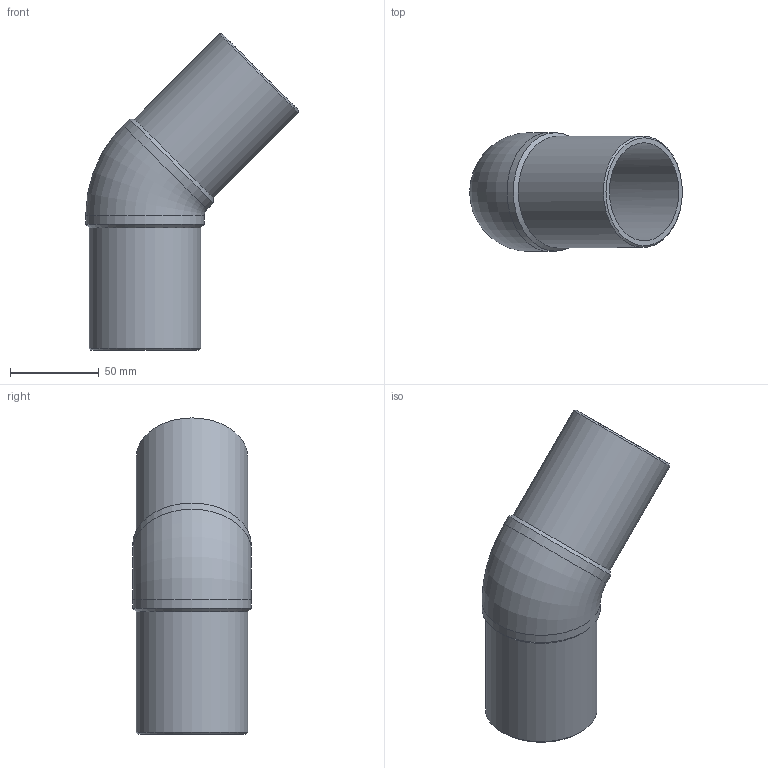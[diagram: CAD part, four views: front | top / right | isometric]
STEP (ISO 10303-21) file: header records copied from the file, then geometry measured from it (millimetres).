
FILE_DESCRIPTION(/* description */ ('Unknown'),/* implementation_level */ '2;1');
FILE_NAME(/* name */ 'G4P063B',/* time_stamp */ '2022-01-17T11:15:58+01:00',/* author */ ('Unknown'),/* organization */ ('Unknown'),/* preprocessor_version */ 'ST-DEVELOPER v18.1',/* originating_system */ 'Solid Edge',/* authorisation */ 'Unknown');
FILE_SCHEMA (('AUTOMOTIVE_DESIGN {1 0 10303 214 3 1 1}'));
Length unit declared in the file: millimetre
Products named in the file (1): G4P063B
Bounding box: 120.12 x 67 x 178.62 mm (x, y, z)
Volume: 146335.5 mm3; surface area: 69887 mm2
Topology: 1 solids, 1 shells, 14 faces, 34 edges, 22 vertices
Faces by surface type: cylinder 6, cone 4, plane 2, torus 2
Full cylindrical faces by diameter (mm): 55.4 x2, 63 x2, 67 x2
Entity records: 364 total; most frequent: CARTESIAN_POINT 64, DIRECTION 60, ORIENTED_EDGE 38, AXIS2_PLACEMENT_3D 30, EDGE_LOOP 27, FACE_BOUND 27, EDGE_CURVE 19, VERTEX_POINT 18
